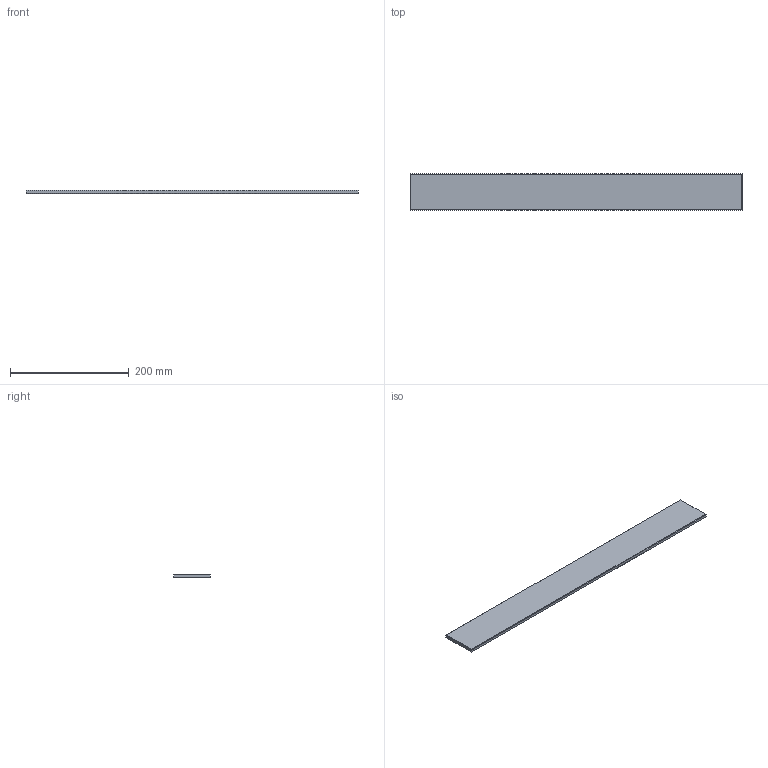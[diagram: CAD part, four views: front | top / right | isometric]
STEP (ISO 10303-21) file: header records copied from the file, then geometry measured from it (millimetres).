
FILE_DESCRIPTION((''),'2;1');
FILE_NAME('238469-HI','2023-01-30T08:27:27',('1ke04'),('Kesseboehmer'),'CREO PARAMETRIC BY PTC INC, 2020414','CREO PARAMETRIC BY PTC INC, 2020414','');
FILE_SCHEMA(('AUTOMOTIVE_DESIGN { 1 0 10303 214 1 1 1 1 }'));
Length unit declared in the file: millimetre
Products named in the file (1): 238469-HI
Bounding box: 559 x 61 x 6 mm (x, y, z)
Volume: 203356.7 mm3; surface area: 74181.9 mm2
Topology: 1 solids, 1 shells, 14 faces, 28 edges, 16 vertices
Faces by surface type: plane 14
Entity records: 966 total; most frequent: COLOUR_RGB 194, DIRECTION 81, CARTESIAN_POINT 76, ORIENTED_EDGE 56, PROPERTY_DEFINITION 39, REPRESENTATION 38, PROPERTY_DEFINITION_REPRESENTATION 38, PRESENTATION_STYLE_ASSIGNMENT 32
